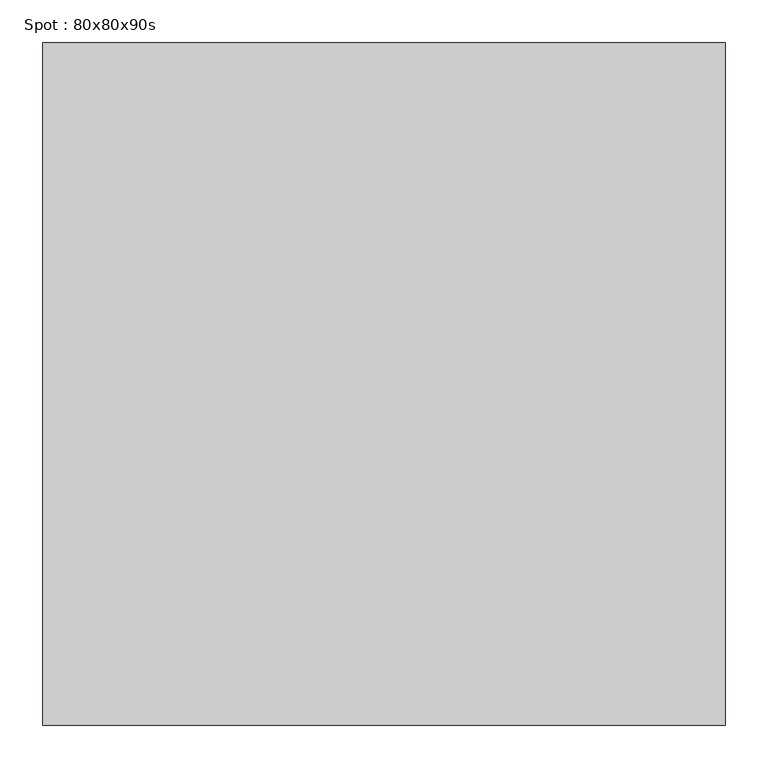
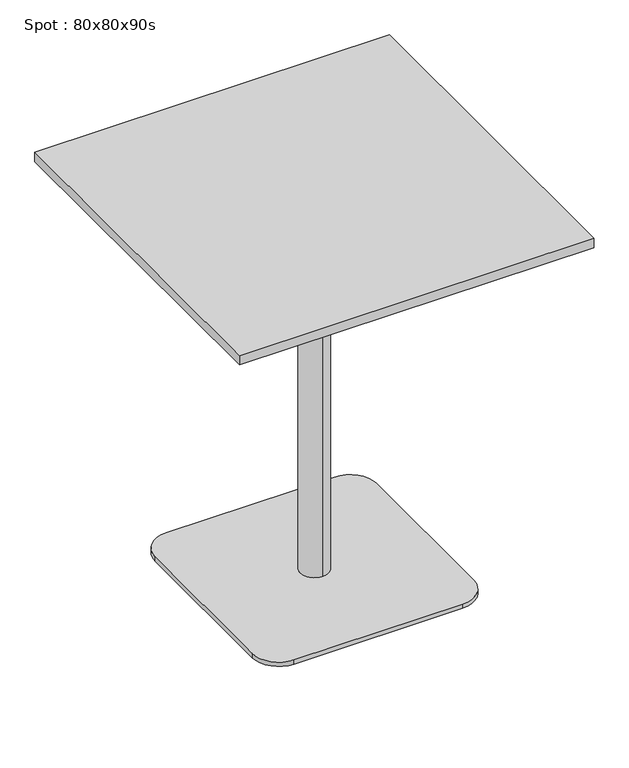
"""IFC4 building model written with IfcOpenShell, lengths in millimetres: furniture geometry, Spot : 80x80x90s."""

from ifc_helpers import new_model, si_unit, point, frame, frame_2d, origin, origin_with_axes, place, context, project, spatial, polyline, circle_curve, trimmed, segment, composite_curve, outline, extrude, source, transform, mapped, element, save
from ifc_brep_helpers import plane_surface, cylinder_surface, revolved_surface, advanced_brep


def spot_80x80x90s_3f7a378e(model_context):
    return source(origin(), model_context, "Body", "SolidModel", [
        extrude(outline(polyline([(400.0, 400.0), (400.0, -400.0), (-400.0, -400.0), (-400.0, 400.0), (400.0, 400.0)])), frame((0.0, 0.0, 878.0), z_axis=(0.0, 0.0, 1.0), x_axis=(1.0, 0.0, 0.0)), (0.0, 0.0, 1.0), 22.0),
        extrude(outline(composite_curve([segment(trimmed(circle_curve(frame_2d((190.0, 190.0)), 60.0), [point((190.0, 250.0))], [point((250.0, 190.0))], False, "CARTESIAN"), True, "CONTINUOUS"), segment(polyline([(250.0, 190.0), (250.0, -190.0)]), True, "CONTINUOUS"), segment(trimmed(circle_curve(frame_2d((190.0, -190.0)), 60.0), [point((250.0, -190.0))], [point((190.0, -250.0))], False, "CARTESIAN"), True, "CONTINUOUS"), segment(polyline([(190.0, -250.0), (-190.0, -250.0)]), True, "CONTINUOUS"), segment(trimmed(circle_curve(frame_2d((-190.0, -190.0)), 60.0), [point((-190.0, -250.0))], [point((-250.0, -190.0))], False, "CARTESIAN"), True, "CONTINUOUS"), segment(polyline([(-250.0, -190.0), (-250.0, 190.0)]), True, "CONTINUOUS"), segment(trimmed(circle_curve(frame_2d((-190.0, 190.0)), 60.0), [point((-250.0, 190.0))], [point((-190.0, 250.0))], False, "CARTESIAN"), True, "CONTINUOUS"), segment(polyline([(-190.0, 250.0), (190.0, 250.0)]), True, "CONTINUOUS")], self_intersect=False)), origin_with_axes(), (0.0, 0.0, 1.0), 10.0),
        advanced_brep(
        [(0.0, 32.0, 10.0), (0.0, -32.0, 10.0), (0.0, -32.0, 847.406916), (0.0, 32.0, 847.406916), (0.0, 0.0, 10.0), (0.0, 150.0, 878.0), (0.0, -150.0, 878.0), (0.0, 0.0, 878.0), (0.0, 150.0, 866.7213673), (0.0, -150.0, 866.7213673)],
        [
            (0, 1, circle_curve(frame((0.0, 0.0, 10.0), z_axis=(0.0, 0.0, 1.0), x_axis=(0.0, -1.0, 0.0)), 32.0)),
            (1, 2),
            (2, 3, circle_curve(frame((0.0, 0.0, 847.406916), z_axis=(0.0, 0.0, -1.0), x_axis=(0.0, -1.0, 0.0)), 32.0)),
            (3, 0),
            (1, 0, circle_curve(frame((0.0, 0.0, 10.0), z_axis=(0.0, 0.0, 1.0), x_axis=(0.0, -1.0, 0.0)), 32.0)),
            (3, 2, circle_curve(frame((0.0, 0.0, 847.406916), z_axis=(0.0, 0.0, -1.0), x_axis=(0.0, -1.0, 0.0)), 32.0)),
            (4, 1),
            (0, 4),
            (5, 6, circle_curve(frame((0.0, 0.0, 878.0), z_axis=(0.0, 0.0, 1.0), x_axis=(0.0, -1.0, 0.0)), 150.0)),
            (6, 7),
            (7, 5),
            (6, 5, circle_curve(frame((0.0, 0.0, 878.0), z_axis=(0.0, 0.0, 1.0), x_axis=(0.0, -1.0, 0.0)), 150.0)),
            (8, 9, circle_curve(frame((0.0, 0.0, 866.7213673), z_axis=(0.0, 0.0, 1.0), x_axis=(0.0, -1.0, 0.0)), 150.0)),
            (9, 6),
            (5, 8),
            (9, 8, circle_curve(frame((0.0, 0.0, 866.7213673), z_axis=(0.0, 0.0, 1.0), x_axis=(0.0, -1.0, 0.0)), 150.0)),
            (2, 9),
            (8, 3),
        ],
        [
            cylinder_surface(frame((0.0, 0.0, 1240.0), z_axis=(0.0, 0.0, -1.0), x_axis=(0.0, -1.0, 0.0)), 32.0),
            plane_surface(frame((0.0, 0.0, 10.0), z_axis=(0.0, 0.0, -1.0), x_axis=(0.0, -1.0, 0.0))),
            plane_surface(frame((0.0, 0.0, 878.0), z_axis=(0.0, 0.0, 1.0), x_axis=(0.0, -1.0, 0.0))),
            cylinder_surface(frame((0.0, 0.0, 1240.0), z_axis=(0.0, 0.0, -1.0), x_axis=(0.0, -1.0, 0.0)), 150.0),
            revolved_surface(polyline([(0.0, -150.0, 866.7213673), (0.0, -32.0, 847.406916)]), (0.0, 0.0, 1240.0), (0.0, 0.0, -1.0)),
        ],
        [
            (0, [[1, 2, 3, 4]]),
            (0, [[5, -4, 6, -2]]),
            (1, [[7, -1, 8]]),
            (1, [[-8, -5, -7]]),
            (2, [[9, 10, 11]]),
            (2, [[12, -11, -10]]),
            (3, [[13, 14, -9, 15]]),
            (3, [[16, -15, -12, -14]]),
            (4, [[-3, 17, -13, 18]]),
            (4, [[-6, -18, -16, -17]]),
        ],
    ),
        extrude(outline(polyline([(0.0, 0.0), (-20.0, 0.0), (-20.0, 20.0), (0.0, 20.0), (0.0, 0.0)])), origin_with_axes(), (0.0, 0.0, 1.0), 10.0),
    ])


if __name__ == "__main__":
    model = new_model("IFC4")
    model_context = context("Model", 3, world=origin())
    ifc_project = project(units=[si_unit("LENGTHUNIT", "METRE", prefix="MILLI")], contexts=[model_context])
    site = spatial("IfcSite", under=ifc_project)
    building = spatial("IfcBuilding", under=site)
    placement = place(None, origin())
    spot_80x80x90s_shape = spot_80x80x90s_3f7a378e(model_context)
    element("IfcFurniture", 1, ObjectType="Spot : 80x80x90s", at=placement, inside=building, context=model_context, shape_type="MappedRepresentation", body=[
        mapped(spot_80x80x90s_shape, transform((0.0, 0.0, 0.0), x_axis=(1.0, 0.0, 0.0), y_axis=(0.0, 1.0, 0.0), z_axis=(0.0, 0.0, 1.0))),
    ])
    save(model, "model.ifc")
